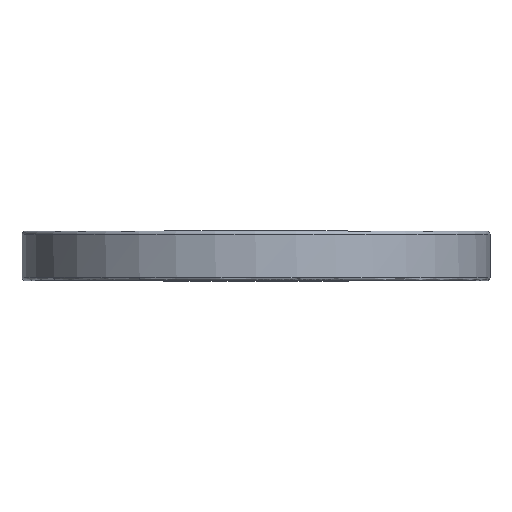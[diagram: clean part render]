
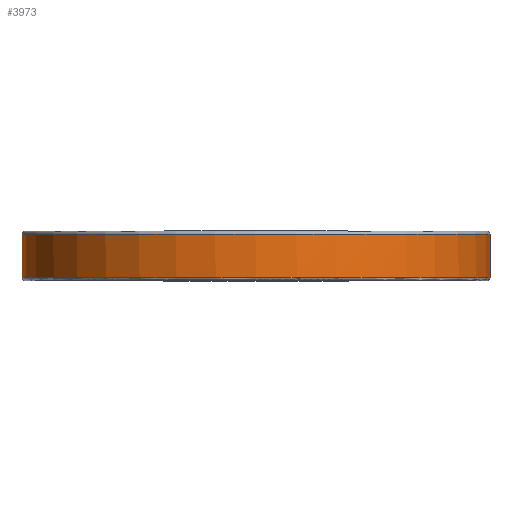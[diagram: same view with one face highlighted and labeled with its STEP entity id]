
A CAD part, top view. The second image highlights one B-rep face of the part: STEP entity #3973.
In plain terms, the highlighted cylindrical face has radius 190 mm (diameter 380 mm), a partial arc.
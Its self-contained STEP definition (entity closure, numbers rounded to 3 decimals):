
#2313=VERTEX_POINT('',#6770);
#2471=VERTEX_POINT('',#6944);
#2579=EDGE_CURVE('',#2313,#3735,#7066,.T.);
#3059=EDGE_CURVE('',#2471,#5983,#7599,.T.);
#3301=EDGE_CURVE('',#2313,#2471,#7867,.T.);
#3735=VERTEX_POINT('',#8358);
#3973=ADVANCED_FACE('',(#8633),#8634,.T.);
#3987=VERTEX_POINT('',#8651);
#4529=EDGE_CURVE('',#5983,#3987,#9259,.T.);
#4649=VERTEX_POINT('',#9409);
#5485=EDGE_CURVE('',#3987,#4649,#10347,.T.);
#5983=VERTEX_POINT('',#10899);
#6321=EDGE_CURVE('',#4649,#3735,#11269,.T.);
#6770=CARTESIAN_POINT('',(-190.0,37.5,0.));
#6944=CARTESIAN_POINT('',(189.996,37.5,1.177));
#7066=LINE('',#12156,#12157);
#7599=CIRCLE('',#12828,190.0);
#7867=CIRCLE('',#13181,190.0);
#8358=CARTESIAN_POINT('',(-190.0,2.5,0.));
#8633=FACE_OUTER_BOUND('',#14174,.T.);
#8634=CYLINDRICAL_SURFACE('',#14175,190.0);
#8651=CARTESIAN_POINT('',(190.0,2.5,0.));
#9259=LINE('',#14970,#14971);
#9409=CARTESIAN_POINT('',(-189.998,2.5,0.829));
#10347=CIRCLE('',#16370,190.0);
#10899=CARTESIAN_POINT('',(190.0,37.5,0.));
#11269=CIRCLE('',#17593,190.0);
#12156=CARTESIAN_POINT('',(-190.0,37.5,0.));
#12157=VECTOR('',#18594,35.0);
#12828=AXIS2_PLACEMENT_3D('',#19225,#19226,#19227);
#13181=AXIS2_PLACEMENT_3D('',#19556,#19557,#19558);
#14174=EDGE_LOOP('',(#20539,#20540,#20541,#20542,#20543,#20544));
#14175=AXIS2_PLACEMENT_3D('',#20545,#20546,#20547);
#14970=CARTESIAN_POINT('',(190.0,37.5,0.));
#14971=VECTOR('',#21335,35.0);
#16370=AXIS2_PLACEMENT_3D('',#22900,#22901,#22902);
#17593=AXIS2_PLACEMENT_3D('',#24074,#24075,#24076);
#18594=DIRECTION('',(0.0,-1.0,0.));
#19225=CARTESIAN_POINT('',(0.0,37.5,0.0));
#19226=DIRECTION('',(0.0,1.0,0.0));
#19227=DIRECTION('',(-1.0,0.0,0.0));
#19556=CARTESIAN_POINT('',(0.0,37.5,0.0));
#19557=DIRECTION('',(0.0,1.0,0.0));
#19558=DIRECTION('',(-1.0,0.0,0.0));
#20539=ORIENTED_EDGE('',*,*,#4529,.F.);
#20540=ORIENTED_EDGE('',*,*,#3059,.F.);
#20541=ORIENTED_EDGE('',*,*,#3301,.F.);
#20542=ORIENTED_EDGE('',*,*,#2579,.T.);
#20543=ORIENTED_EDGE('',*,*,#6321,.F.);
#20544=ORIENTED_EDGE('',*,*,#5485,.F.);
#20545=CARTESIAN_POINT('',(0.0,40.0,0.0));
#20546=DIRECTION('',(-0.0,-1.0,-0.0));
#20547=DIRECTION('',(-1.0,0.0,0.0));
#21335=DIRECTION('',(0.0,-1.0,0.));
#22900=CARTESIAN_POINT('',(0.0,2.5,0.0));
#22901=DIRECTION('',(0.0,-1.0,0.0));
#22902=DIRECTION('',(1.0,0.0,0.0));
#24074=CARTESIAN_POINT('',(0.0,2.5,0.0));
#24075=DIRECTION('',(0.0,-1.0,0.0));
#24076=DIRECTION('',(1.0,0.0,0.0));
